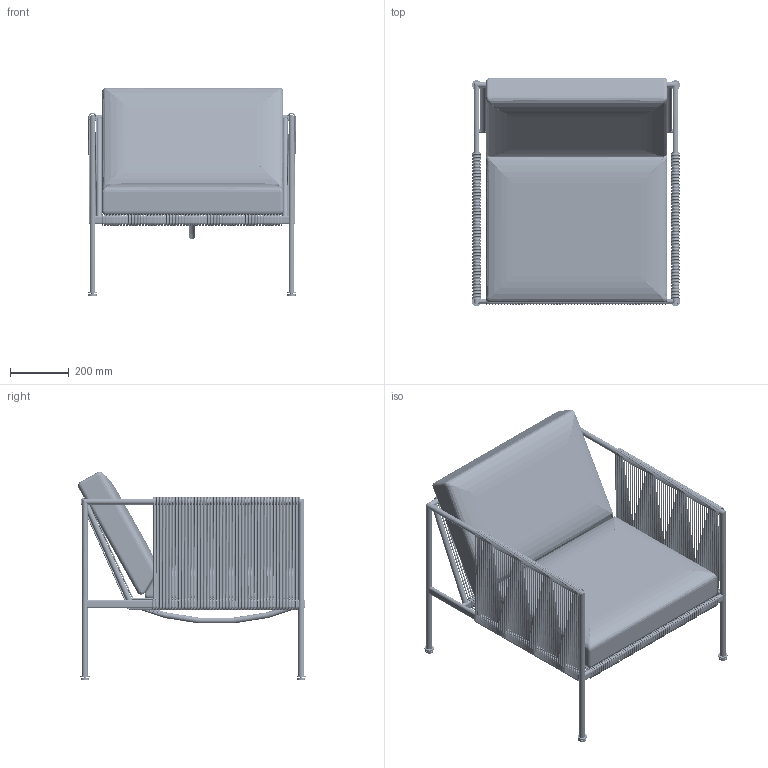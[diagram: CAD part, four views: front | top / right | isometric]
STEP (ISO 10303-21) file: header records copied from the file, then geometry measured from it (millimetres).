
FILE_DESCRIPTION(/* description */ (''),/* implementation_level */ '2;1');
FILE_NAME(/* name */ 'Antibes Chair.stp',/* time_stamp */ '2023-04-04T18:11:26+02:00',/* author */ ('TorbjörnMalm'),/* organization */ (''),/* preprocessor_version */ 'ST-DEVELOPER v19.2',/* originating_system */ 'Autodesk Inventor 2023',/* authorisation */ '');
FILE_SCHEMA (('AUTOMOTIVE_DESIGN { 1 0 10303 214 3 1 1 }'));
Products named in the file (35): Antibes Chair; Antibes Chair1; Antibes Chair2; Antibes Chair3; Antibes Chair4; Antibes Chair5; Antibes Chair6; Antibes Chair7; Antibes Chair8; Antibes Chair9; Antibes Chair10; Antibes Chair11; Antibes Chair12; Antibes Chair13; Antibes Chair14; Antibes Chair15; Antibes Chair16; Antibes Chair17; Antibes Chair18; Antibes Chair19; Antibes Chair20; Antibes Chair21; Antibes Chair22; Antibes Chair23; Antibes Chair24; Antibes Chair25; Antibes Chair26; Antibes Chair27; Antibes Chair28; Antibes Chair29; Antibes Chair30; Antibes Chair31; Antibes Chair32; Antibes Chair33; Antibes Chair34
Assembly tree (34 placements, depth 2):
  Antibes Chair
    Antibes Chair1
    Antibes Chair2
    Antibes Chair3
    Antibes Chair4
    Antibes Chair5
    Antibes Chair6
    Antibes Chair7
    Antibes Chair8
    Antibes Chair9
    Antibes Chair10
    Antibes Chair11
    Antibes Chair12
    Antibes Chair13
    Antibes Chair14
    Antibes Chair15
    Antibes Chair16
    Antibes Chair17
    Antibes Chair18
    Antibes Chair19
    Antibes Chair20
    Antibes Chair21
    Antibes Chair22
    Antibes Chair23
    Antibes Chair24
    Antibes Chair25
    Antibes Chair26
    Antibes Chair27
    Antibes Chair28
    Antibes Chair29
    Antibes Chair30
    Antibes Chair31
    Antibes Chair32
    Antibes Chair33
    Antibes Chair34
Bounding box: 712 x 779.5 x 710.64 mm (x, y, z)
Volume: 66199088.6 mm3; surface area: 5961356.9 mm2
Topology: 155 solids, 155 shells, 2542 faces, 8042 edges, 5536 vertices
Faces by surface type: cylinder 1343, torus 1033, plane 118, bspline 48
Full cylindrical faces by diameter (mm): 4.5 x1048, 4.7 x183, 6.647 x4, 8 x4, 12 x2, 14 x2, 17.1 x4, 17.6 x9, 18 x4, 20 x9, 28 x4, 32 x4
Entity records: 102287 total; most frequent: CARTESIAN_POINT 23467, DIRECTION 18888, ORIENTED_EDGE 16052, AXIS2_PLACEMENT_3D 8683, EDGE_CURVE 8026, CIRCLE 6034, VERTEX_POINT 5536, EDGE_LOOP 2578
